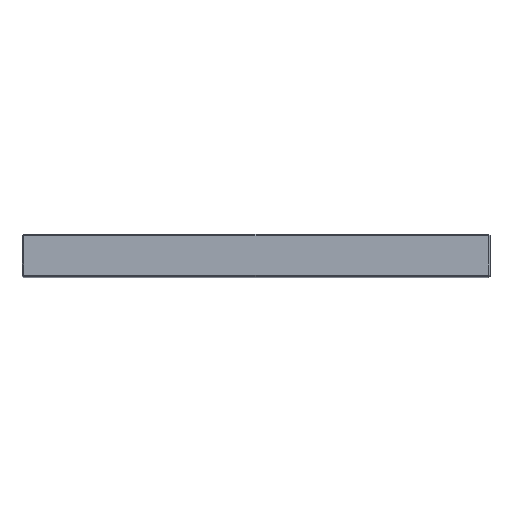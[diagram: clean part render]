
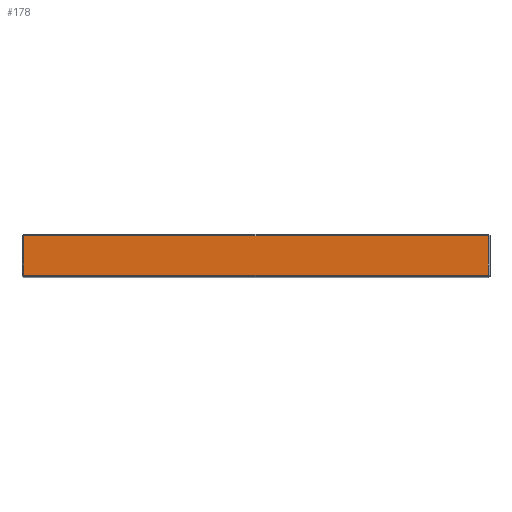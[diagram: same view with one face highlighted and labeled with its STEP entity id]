
A CAD part, top view. The second image highlights one B-rep face of the part: STEP entity #178.
In plain terms, the highlighted planar face has unit normal (0, 0, 1).
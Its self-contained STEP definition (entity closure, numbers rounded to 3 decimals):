
#101 = CARTESIAN_POINT ( 'NONE',  ( -148., 26., 223. ) ) ;
#178 = ADVANCED_FACE ( 'NONE', ( #524 ), #1125, .F. ) ;
#263 = LINE ( 'NONE', #820, #1623 ) ;
#319 = CARTESIAN_POINT ( 'NONE',  ( 147., 26., 223. ) ) ;
#402 = ORIENTED_EDGE ( 'NONE', *, *, #625, .T. ) ;
#524 = FACE_OUTER_BOUND ( 'NONE', #1327, .T. ) ;
#583 = DIRECTION ( 'NONE',  ( 0., -1., 0. ) ) ;
#625 = EDGE_CURVE ( 'NONE', #887, #913, #891, .T. ) ;
#681 = CARTESIAN_POINT ( 'NONE',  ( -147., 26., 223. ) ) ;
#820 = CARTESIAN_POINT ( 'NONE',  ( 147., 27., 223. ) ) ;
#828 = DIRECTION ( 'NONE',  ( 0., 1., 0. ) ) ;
#887 = VERTEX_POINT ( 'NONE', #319 ) ;
#891 = LINE ( 'NONE', #101, #1227 ) ;
#912 = LINE ( 'NONE', #1491, #2291 ) ;
#913 = VERTEX_POINT ( 'NONE', #681 ) ;
#919 = DIRECTION ( 'NONE',  ( 0., 0., -1. ) ) ;
#959 = CARTESIAN_POINT ( 'NONE',  ( 147., 1., 223. ) ) ;
#1080 = CARTESIAN_POINT ( 'NONE',  ( -147., 27., 223. ) ) ;
#1088 = CARTESIAN_POINT ( 'NONE',  ( 148., 27., 223. ) ) ;
#1090 = CARTESIAN_POINT ( 'NONE',  ( -147., 1., 223. ) ) ;
#1125 = PLANE ( 'NONE',  #1862 ) ;
#1136 = DIRECTION ( 'NONE',  ( -1., 0., 0. ) ) ;
#1206 = VERTEX_POINT ( 'NONE', #1090 ) ;
#1223 = LINE ( 'NONE', #1080, #1626 ) ;
#1227 = VECTOR ( 'NONE', #2313, 1000. ) ;
#1297 = ORIENTED_EDGE ( 'NONE', *, *, #2107, .T. ) ;
#1327 = EDGE_LOOP ( 'NONE', ( #402, #1727, #2151, #1297 ) ) ;
#1457 = DIRECTION ( 'NONE',  ( 1., 0., 0. ) ) ;
#1480 = EDGE_CURVE ( 'NONE', #913, #1206, #1223, .T. ) ;
#1491 = CARTESIAN_POINT ( 'NONE',  ( 148., 1., 223. ) ) ;
#1623 = VECTOR ( 'NONE', #828, 1000. ) ;
#1626 = VECTOR ( 'NONE', #583, 1000. ) ;
#1727 = ORIENTED_EDGE ( 'NONE', *, *, #1480, .T. ) ;
#1862 = AXIS2_PLACEMENT_3D ( 'NONE', #1088, #919, #1136 ) ;
#2019 = EDGE_CURVE ( 'NONE', #1206, #2348, #912, .T. ) ;
#2107 = EDGE_CURVE ( 'NONE', #2348, #887, #263, .T. ) ;
#2151 = ORIENTED_EDGE ( 'NONE', *, *, #2019, .T. ) ;
#2291 = VECTOR ( 'NONE', #1457, 1000. ) ;
#2313 = DIRECTION ( 'NONE',  ( -1., 0., 0. ) ) ;
#2348 = VERTEX_POINT ( 'NONE', #959 ) ;
